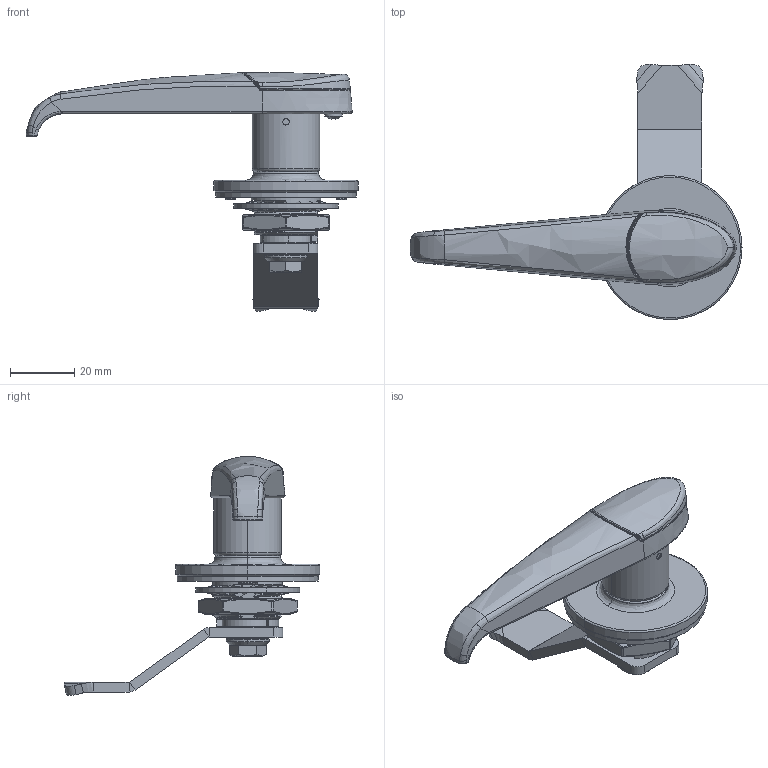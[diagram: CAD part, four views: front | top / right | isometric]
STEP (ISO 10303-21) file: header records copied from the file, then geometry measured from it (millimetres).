
FILE_DESCRIPTION (( 'STEP AP214' ), '1' );
FILE_NAME ('B-1301-1.STEP', '2026-06-18T02:01:43', ( '' ), ( '' ), 'SwSTEP 2.0', 'SolidWorks 2020', '' );
FILE_SCHEMA (( 'AUTOMOTIVE_DESIGN' ));
Length unit declared in the file: millimetre
Products named in the file (33): B-1301-1.sldasm-Part-11; B-1301-1.sldasm-Part-24; B-1301-1.sldasm-Part-12; B-1301-1.sldasm-Part-25; B-1301-1.sldasm-Part-18; B-1301-1.sldasm-Part-28; B-1301-1.sldasm-Part-3; B-1301-1.sldasm-Part-14; B-1301-1.sldasm-Part-15; B-1301-1.sldasm-Part-32; B-1301-1.sldasm-Part-22; B-1301-1.sldasm-Part-27; B-1301-1; B-1301-1.sldasm-Part-23; B-1301-1.sldasm-Part-30; B-1301-1.sldasm-Part-8; B-1301-1.sldasm-Part-1; B-1301-1.sldasm-Part-5; B-1301-1.sldasm-Part-4; B-1301-1.sldasm-Part-20; B-1301-1.sldasm-Part-2; B-1301-1.sldasm-Part-13; B-1301-1.sldasm-Part-19; B-1301-1.sldasm-Part-10; B-1301-1.sldasm-Part-7; B-1301-1.sldasm-Part-16; B-1301-1.sldasm-Part-21; B-1301-1.sldasm-Part-31; B-1301-1.sldasm-Part-17; B-1301-1.sldasm-Part-9; B-1301-1.sldasm-Part-29; B-1301-1.sldasm-Part-6; B-1301-1.sldasm-Part-26
Assembly tree (31 placements, depth 2):
  B-1301-1
    B-1301-1.sldasm-Part-1
    B-1301-1.sldasm-Part-2
    B-1301-1.sldasm-Part-3
    B-1301-1.sldasm-Part-4
    B-1301-1.sldasm-Part-5
    B-1301-1.sldasm-Part-6
    B-1301-1.sldasm-Part-7
    B-1301-1.sldasm-Part-8
    B-1301-1.sldasm-Part-9
    B-1301-1.sldasm-Part-10
    B-1301-1.sldasm-Part-11
    B-1301-1.sldasm-Part-12
    B-1301-1.sldasm-Part-13
    B-1301-1.sldasm-Part-14
    B-1301-1.sldasm-Part-15
    B-1301-1.sldasm-Part-16
    B-1301-1.sldasm-Part-17
    B-1301-1.sldasm-Part-18
    B-1301-1.sldasm-Part-19
    B-1301-1.sldasm-Part-20
    B-1301-1.sldasm-Part-21
    B-1301-1.sldasm-Part-22
    B-1301-1.sldasm-Part-23
    B-1301-1.sldasm-Part-24
    B-1301-1.sldasm-Part-25
    B-1301-1.sldasm-Part-27
    B-1301-1.sldasm-Part-28
    B-1301-1.sldasm-Part-29
    B-1301-1.sldasm-Part-30
    B-1301-1.sldasm-Part-31
    B-1301-1.sldasm-Part-32
  B-1301-1.sldasm-Part-26
Bounding box: 103.74 x 79.8 x 74.6 mm (x, y, z)
Volume: 33095.3 mm3; surface area: 33260 mm2
Topology: 31 solids, 32 shells, 1790 faces, 4560 edges, 2839 vertices
Faces by surface type: cylinder 557, plane 541, bspline 442, cone 125, torus 121, sphere 4
Entity records: 108606 total; most frequent: CARTESIAN_POINT 67696, ORIENTED_EDGE 9058, DIRECTION 7049, EDGE_CURVE 4529, VERTEX_POINT 2837, AXIS2_PLACEMENT_3D 2698, EDGE_LOOP 1860, ADVANCED_FACE 1790
